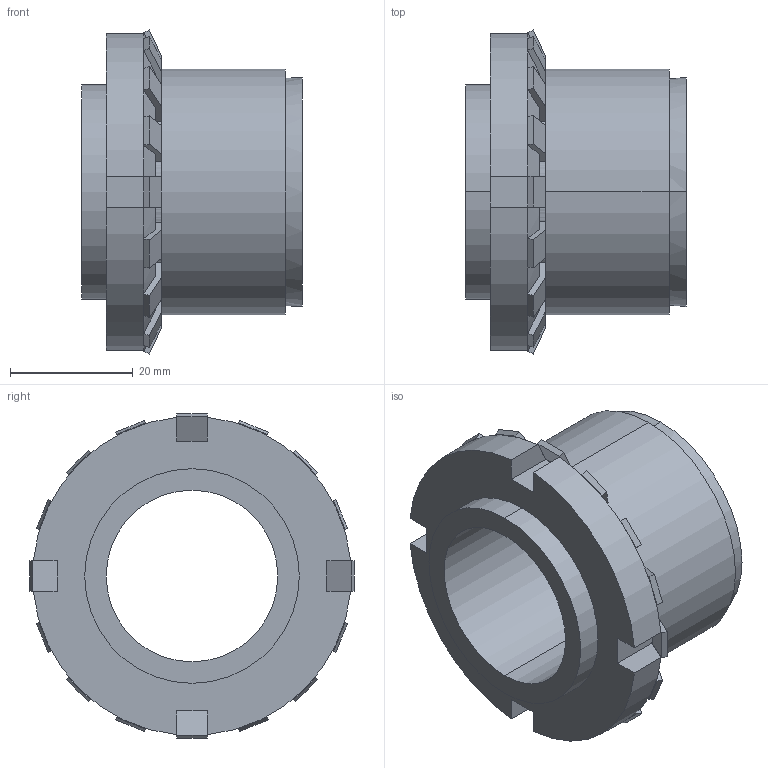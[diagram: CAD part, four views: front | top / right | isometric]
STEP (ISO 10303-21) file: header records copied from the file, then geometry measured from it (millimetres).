
FILE_DESCRIPTION (( 'STEP AP203' ), '1' );
FILE_NAME ('SI-28.STEP', '2009-09-29T17:24:41', ( 'USER' ), ( 'HOME' ), 'SwSTEP 2.0', 'SolidWorks 2007', '' );
FILE_SCHEMA (( 'CONFIG_CONTROL_DESIGN' ));
Length unit declared in the file: millimetre
Products named in the file (1): SI-28
Bounding box: 36 x 52.85 x 52.85 mm (x, y, z)
Volume: 30297.3 mm3; surface area: 28340.1 mm2
Topology: 19 solids, 19 shells, 232 faces, 574 edges, 380 vertices
Faces by surface type: plane 130, cylinder 94, cone 8
Entity records: 7043 total; most frequent: CARTESIAN_POINT 1235, DIRECTION 1220, ORIENTED_EDGE 1148, EDGE_CURVE 574, AXIS2_PLACEMENT_3D 429, VERTEX_POINT 380, LINE 362, VECTOR 362
